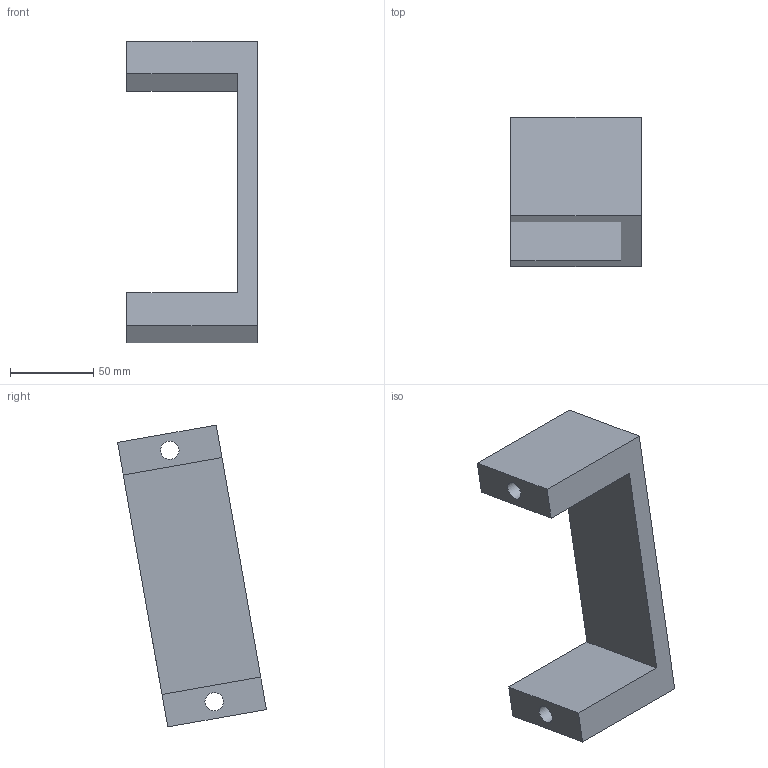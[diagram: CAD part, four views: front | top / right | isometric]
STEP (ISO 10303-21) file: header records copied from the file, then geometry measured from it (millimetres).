
FILE_DESCRIPTION(('golf model'),'2;1');
FILE_NAME('golf','',(''),(''),'golf_step_io','golf','');
FILE_SCHEMA(('AUTOMOTIVE_DESIGN { 1 0 10303 214 1 1 1 1 }'));
Length unit declared in the file: millimetre
Products named in the file (2): ASSEMBLY; z_axis.clamp_0_cap
Assembly tree (1 placements, depth 2):
  ASSEMBLY
    z_axis.clamp_0_cap
Bounding box: 78 x 89.13 x 180.79 mm (x, y, z)
Volume: 263366.7 mm3; surface area: 52626.9 mm2
Topology: 1 solids, 1 shells, 16 faces, 40 edges, 28 vertices
Faces by surface type: plane 12, cylinder 4
Full cylindrical faces by diameter (mm): 11 x2, 17 x2
Entity records: 470 total; most frequent: DIRECTION 76, CARTESIAN_POINT 74, ORIENTED_EDGE 64, EDGE_CURVE 32, AXIS2_PLACEMENT_3D 26, EDGE_LOOP 26, VERTEX_POINT 24, VECTOR 24
